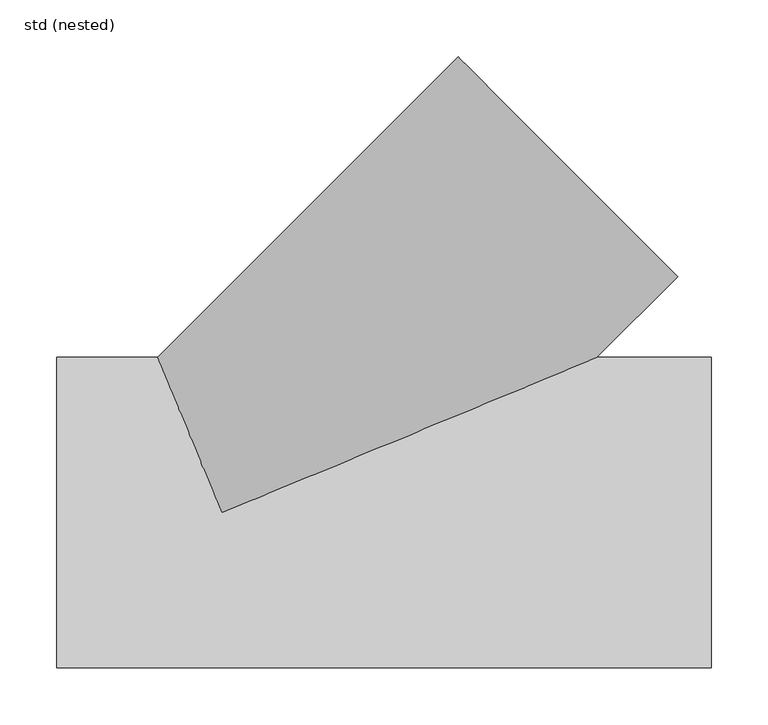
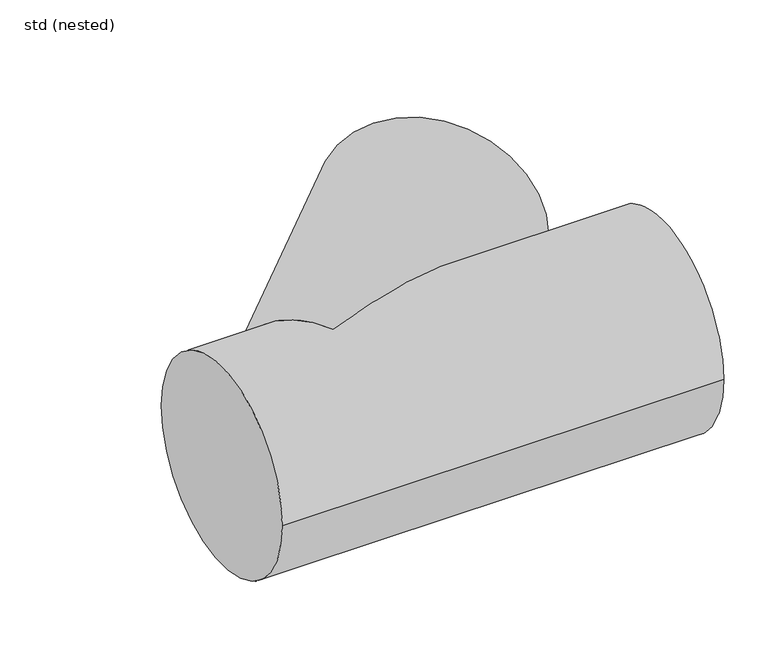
"""IFC4 building model written with IfcOpenShell, lengths in millimetres: pipe fitting geometry, ZZZ_do not use_PIF_ST_UN_GM-X single branch socket free_ACO : std (nested)."""

from ifc_helpers import new_model, si_unit, frame, origin, place, context, project, spatial, circle_curve, ellipse_curve, source, transform, mapped, element, save
from ifc_brep_helpers import plane_surface, cylinder_surface, advanced_brep


def std_nested_dc9893ff(model_context):
    return source(origin(), model_context, "Body", "AdvancedBrep", [
        advanced_brep(
        [(430.0, -136.5, 0.0), (430.0, 136.5, 0.0), (-145.0, -136.5, 0.0), (-145.0, 136.5, 0.0), (-56.5327006, 136.5, 0.0), (0.0, 0.0, -136.5), (329.5835824, 136.5, 0.0), (0.0, 0.0, 136.5), (400.5953283, 207.4985131, 0.0), (207.5731656, 400.5566513, 0.0)],
        [
            (0, 1, circle_curve(frame((430.0, 0.0, 0.0), z_axis=(1.0, 0.0, 0.0), x_axis=(0.0, 1.0, 0.0)), 136.5)),
            (1, 0, circle_curve(frame((430.0, 0.0, 0.0), z_axis=(1.0, 0.0, 0.0), x_axis=(0.0, 1.0, 0.0)), 136.5)),
            (2, 3, circle_curve(frame((-145.0, 0.0, 0.0), z_axis=(-1.0, 0.0, 0.0), x_axis=(0.0, 1.0, 0.0)), 136.5)),
            (3, 2, circle_curve(frame((-145.0, 0.0, 0.0), z_axis=(-1.0, 0.0, 0.0), x_axis=(0.0, 1.0, 0.0)), 136.5)),
            (0, 2),
            (3, 4),
            (4, 5, ellipse_curve(frame((0.0, 0.0, 0.0), z_axis=(-0.9238973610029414, -0.38264038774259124, 0.0), x_axis=(0.3826403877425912, -0.9238973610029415, 0.0)), 147.7436843, 136.5)),
            (5, 6, ellipse_curve(frame((0.0, 0.0, 0.0), z_axis=(0.3826403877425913, -0.9238973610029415, 0.0), x_axis=(0.9238973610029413, 0.3826403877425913, 0.0)), 356.731815, 136.5)),
            (6, 1),
            (6, 7, ellipse_curve(frame((0.0, 0.0, 0.0), z_axis=(0.3826403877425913, -0.9238973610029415, 0.0), x_axis=(0.9238973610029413, 0.3826403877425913, 0.0)), 356.731815, 136.5)),
            (7, 4, ellipse_curve(frame((0.0, 0.0, 0.0), z_axis=(-0.9238973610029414, -0.38264038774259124, 0.0), x_axis=(0.3826403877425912, -0.9238973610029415, 0.0)), 147.7436843, 136.5)),
            (8, 9, circle_curve(frame((304.084247, 304.0275822, 0.0), z_axis=(0.7071726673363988, 0.7070408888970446, 0.0), x_axis=(-0.7070408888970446, 0.7071726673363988, 0.0)), 136.5)),
            (9, 8, circle_curve(frame((304.084247, 304.0275822, 0.0), z_axis=(0.7071726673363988, 0.7070408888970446, 0.0), x_axis=(-0.7070408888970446, 0.7071726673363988, 0.0)), 136.5)),
            (9, 4),
            (6, 8),
        ],
        [
            plane_surface(frame((430.0, 136.5, 0.0), z_axis=(1.0, 0.0, 0.0), x_axis=(0.0, 0.0, 1.0))),
            plane_surface(frame((-145.0, 136.5, 0.0), z_axis=(-1.0, 0.0, 0.0), x_axis=(0.0, 0.0, -1.0))),
            cylinder_surface(frame((-145.0, 0.0, 0.0), z_axis=(1.0, 0.0, 0.0), x_axis=(0.0, 1.0, 0.0)), 136.5),
            plane_surface(frame((304.084247, 304.0275822, 0.0), z_axis=(0.7071726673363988, 0.7070408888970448, 0.0), x_axis=(0.0, 0.0, 1.0))),
            cylinder_surface(frame((0.0, 0.0, 0.0), z_axis=(-0.7071726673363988, -0.7070408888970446, 0.0), x_axis=(-0.7070408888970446, 0.7071726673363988, 0.0)), 136.5),
        ],
        [
            (0, [[1, 2]]),
            (1, [[3, 4]]),
            (2, [[-1, 5, -4, 6, 7, 8, 9]]),
            (2, [[-2, -9, 10, 11, -6, -3, -5]]),
            (3, [[12, 13]]),
            (4, [[-13, 14, -11, -10, 15]]),
            (4, [[-12, -15, -8, -7, -14]]),
        ],
    ),
    ])


if __name__ == "__main__":
    model = new_model("IFC4")
    model_context = context("Model", 3, world=origin())
    ifc_project = project(units=[si_unit("LENGTHUNIT", "METRE", prefix="MILLI")], contexts=[model_context])
    site = spatial("IfcSite", under=ifc_project)
    building = spatial("IfcBuilding", under=site)
    placement = place(None, origin())
    std_nested_shape = std_nested_dc9893ff(model_context)
    element("IfcPipeFitting", 1, ObjectType="ZZZ_do not use_PIF_ST_UN_GM-X single branch socket free_ACO : std (nested)", at=placement, inside=building, context=model_context, shape_type="MappedRepresentation", body=[
        mapped(std_nested_shape, transform((0.0, 0.0, 0.0), x_axis=(1.0, 0.0, 0.0), y_axis=(0.0, 1.0, 0.0), z_axis=(0.0, 0.0, 1.0))),
    ])
    save(model, "model.ifc")
